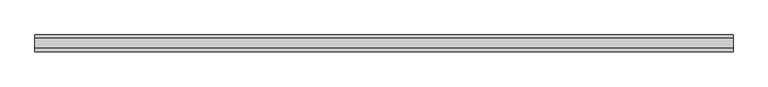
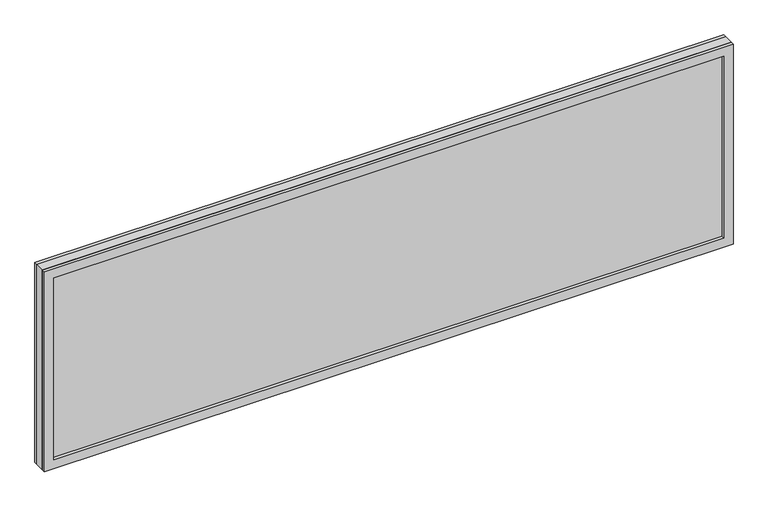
"""IFC4 building model written with IfcOpenShell, lengths in millimetres: plate geometry, ARQ-PA-IN-Vidrio Fijo : ARQ-PA-IN-Vidrio Fijo."""

from ifc_helpers import new_model, si_unit, frame, origin, origin_with_axes, place, context, project, spatial, polyline, outline, extrude, source, transform, mapped, element, save


def plate_2efda8e6(model_context):
    return source(origin(), model_context, "Body", "SweptSolid", [
        extrude(outline(polyline([(733.3837957, 10.0), (733.3837957, -10.0), (-733.3837957, -10.0), (-733.3837957, 10.0), (733.3837957, 10.0)])), origin_with_axes(), (0.0, 0.0, 1.0), 450.0),
        extrude(outline(polyline([(450.0, -733.3837957), (0.0, -733.3837957), (0.0, 733.3837957), (450.0, 733.3837957), (450.0, -733.3837957)]), holes=[polyline([(430.0, -713.3837957), (430.0, 713.3837957), (20.0, 713.3837957), (20.0, -713.3837957), (430.0, -713.3837957)])]), frame((0.0, -17.5, 0.0), z_axis=(0.0, 1.0, 0.0), x_axis=(0.0, 0.0, 1.0)), (0.0, 0.0, 1.0), 35.0),
    ])


if __name__ == "__main__":
    model = new_model("IFC4")
    model_context = context("Model", 3, world=origin())
    ifc_project = project(units=[si_unit("LENGTHUNIT", "METRE", prefix="MILLI")], contexts=[model_context])
    site = spatial("IfcSite", under=ifc_project)
    building = spatial("IfcBuilding", under=site)
    placement = place(None, origin())
    plate_shape = plate_2efda8e6(model_context)
    element("IfcPlate", 1, ObjectType="ARQ-PA-IN-Vidrio Fijo : ARQ-PA-IN-Vidrio Fijo", at=placement, inside=building, context=model_context, shape_type="MappedRepresentation", body=[
        mapped(plate_shape, transform((0.0, 0.0, 0.0), x_axis=(1.0, 0.0, 0.0), y_axis=(0.0, 1.0, 0.0), z_axis=(0.0, 0.0, 1.0))),
    ])
    save(model, "model.ifc")
